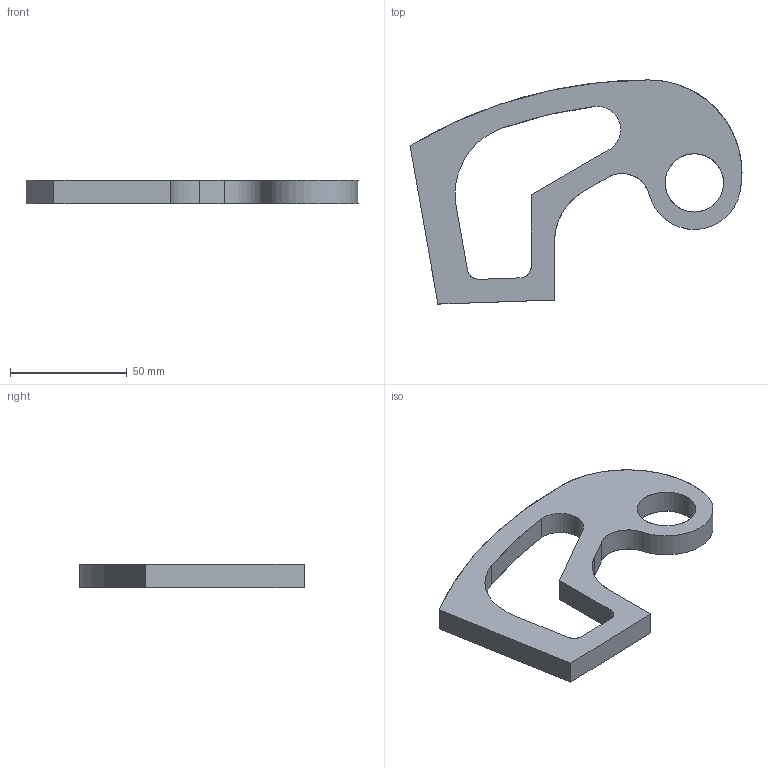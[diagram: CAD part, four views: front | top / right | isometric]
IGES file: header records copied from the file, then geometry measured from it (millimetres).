
Start section: SolidWorks IGES file using analytic representation for surfaces
Global section: file name: E:\Nouveau dossier\tarek\mécaniquee\L3GMCFM\TP0\EX11.IGS; native system: SolidWorks 2013; preprocessor: SolidWorks 2013; author: LENOVO; date: 180921.174946; units: millimetre
Bounding box: 142.44 x 96.18 x 10 mm (x, y, z)
Surface area: 17967.5 mm2 (no closed solid volume)
Topology: 0 solids, 0 shells, 23 faces, 378 edges, 378 vertices
Faces by surface type: revolution 13, bspline 10
